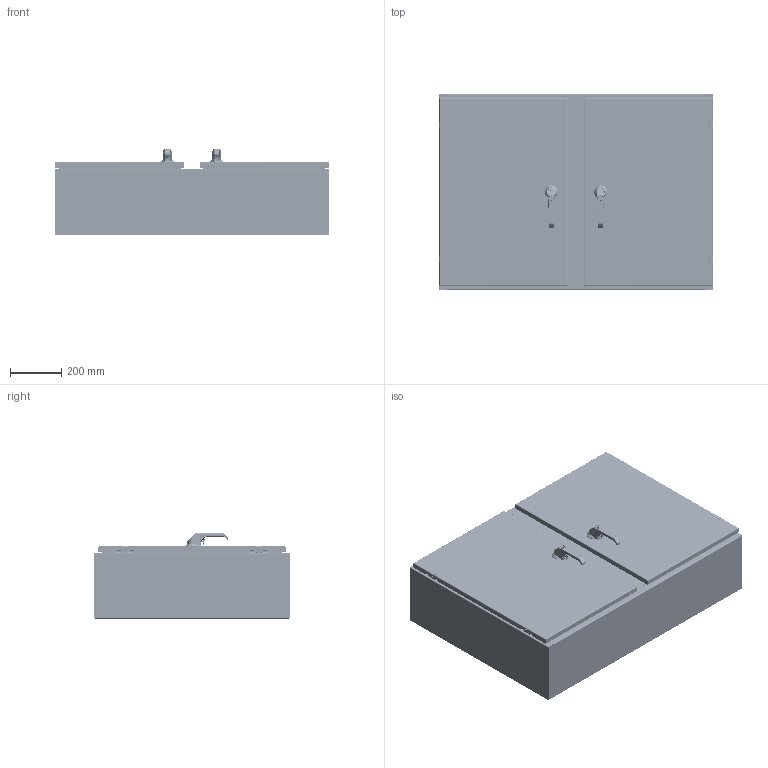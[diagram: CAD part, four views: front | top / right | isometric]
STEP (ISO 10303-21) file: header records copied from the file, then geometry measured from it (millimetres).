
FILE_DESCRIPTION((''),'2;1');
FILE_NAME('MODEL-324_ASM','2025-12-29T14:06:37',('ChadS'),('SAGINAW CONTROL & ENGINEERING'),'CREO PARAMETRIC BY PTC INC, 2021284','CREO PARAMETRIC BY PTC INC, 2021284','');
FILE_SCHEMA(('AUTOMOTIVE_DESIGN { 1 0 10303 214 1 1 1 1 }'));
Length unit declared in the file: inch
Products named in the file (76): MODEL-324-BDY; MODEL-324-TP; MODEL-324-BTM; 128379; 100028; 128379_ASM; MODEL-324-CCA-CHNL; 100062; 127618; 128380; 102535; MODEL-324-CCASSY_ASM; MODEL-324-R-DR; 100837; 100882; 111267; 100955_SCREW_MTG; 100955_PADLOCK_CATCH; 100955_SCREW_LARGE; 100955_INSERT_SHAFT; 100955_INSERT_PKH; 100955_GASKET; 100955_O-RING; 100955_BASE; 100955_SPRING; 100955_HANDLE; 100955_CAM_SHAFT; 100955_HANDLE_ASM; 100955_CAM_ADAPTER; 100955_EARTH_NUT; 100955_FLANGE_NUT; 100955_CAM_NUT; 100955_KEY_INSERT; 100955_SPRING_CAM; 100955_TORSION_SPRING; 100955_SCREW_INSERT; 100955_ASM; 102236; 100030; 102236_ASM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
Assembly tree (169 placements, depth 5):
  MODEL-324_ASM
    MODEL-324-BDY
    MODEL-324-TP
    MODEL-324-BTM
    128379_ASM  x2
      128379
      100028
    MODEL-324-CCASSY_ASM
      MODEL-324-CCA-CHNL
      100062  x2
      127618  x2
      128380  x2
      102535  x8
    MODEL-324-RIGHT-DR-ASSY_ASM
      MODEL-324-R-DR
      100837  x5
      100882  x4
      111267
      100955_ASM
        100955_SCREW_MTG
        100955_PADLOCK_CATCH
        100955_SCREW_LARGE  x2
        100955_INSERT_SHAFT
        100955_INSERT_PKH
        100955_GASKET
        100955_O-RING
        100955_BASE
        100955_SPRING
        100955_HANDLE_ASM
          100955_HANDLE
          100955_CAM_SHAFT
        100955_CAM_ADAPTER
        100955_EARTH_NUT
        100955_FLANGE_NUT
        100955_CAM_NUT
        100955_KEY_INSERT
        100955_SPRING_CAM
        100955_TORSION_SPRING
        100955_SCREW_INSERT
      102236_ASM
        102236
        100030  x2
      MODEL-324-ROD-UPR-RD_ASM
        MODEL-324-ROD-UPR-RD
        128146
        128145
        128144
        102482  x2
      128143  x2
      112504  x2
      MODEL-324-ROD-LWR-RD_ASM
        MODEL-324-ROD-LWR-RD
        128146
        128145
        128144
        102482  x2
      MODEL-324-GSKT-R-DR
      126391_ASM  x2
        126391
      126393  x2
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Bounding box: 1066.8 x 762 x 332.5 mm (x, y, z)
Volume: 9008711.5 mm3; surface area: 8027450.9 mm2
Topology: 197 solids, 197 shells, 17176 faces, 42870 edges, 26032 vertices
Faces by surface type: plane 6085, cylinder 4559, bspline 3036, torus 1566, cone 1266, sphere 604, extrusion 60
Entity records: 374945 total; most frequent: CARTESIAN_POINT 148952, ORIENTED_EDGE 34944, DIRECTION 31935, PRESENTATION_STYLE_ASSIGNMENT 17547, STYLED_ITEM 17542, CURVE_STYLE 17472, EDGE_CURVE 17472, AXIS2_PLACEMENT_3D 11797
